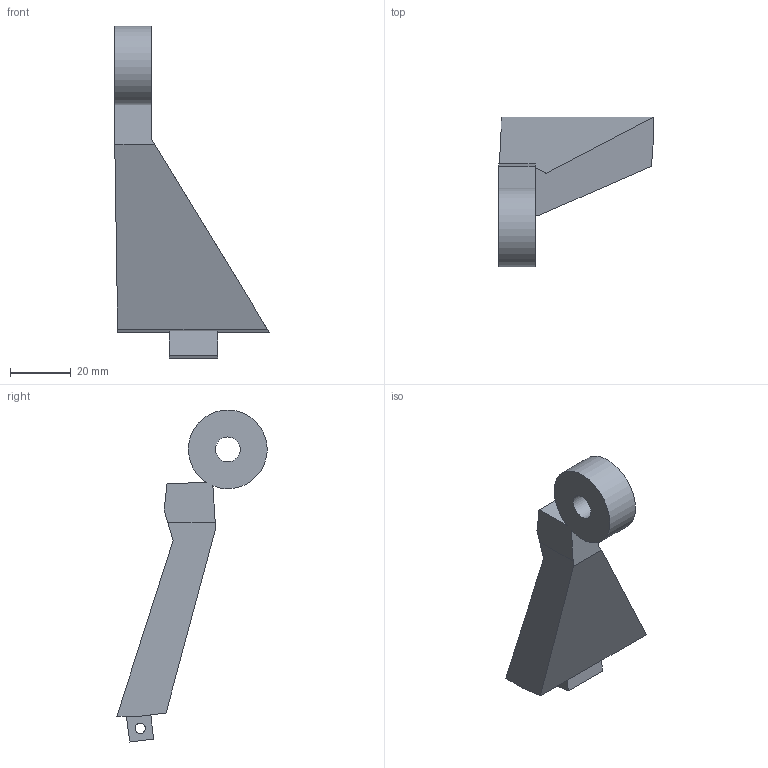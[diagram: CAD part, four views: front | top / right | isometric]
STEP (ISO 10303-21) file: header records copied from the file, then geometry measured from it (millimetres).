
FILE_DESCRIPTION(('Open CASCADE Model'),'2;1');
FILE_NAME('Open CASCADE Shape Model','2026-10-16T02:10:56',('Author'),( 'Open CASCADE'),'Open CASCADE STEP processor 7.9','Open CASCADE 7.9' ,'Unknown');
FILE_SCHEMA(('AUTOMOTIVE_DESIGN { 1 0 10303 214 1 1 1 1 }'));
Length unit declared in the file: millimetre
Products named in the file (1): Open CASCADE STEP translator 7.9 21
Bounding box: 51 x 49.59 x 109.5 mm (x, y, z)
Volume: 38014.8 mm3; surface area: 10526.4 mm2
Topology: 1 solids, 1 shells, 20 faces, 54 edges, 36 vertices
Faces by surface type: plane 17, cylinder 3
Full cylindrical faces by diameter (mm): 3.4 x1, 8.2 x1
Entity records: 1350 total; most frequent: CARTESIAN_POINT 231, DIRECTION 208, LINE 150, VECTOR 150, ORIENTED_EDGE 108, PCURVE 108, DEFINITIONAL_REPRESENTATION 108, EDGE_CURVE 54
